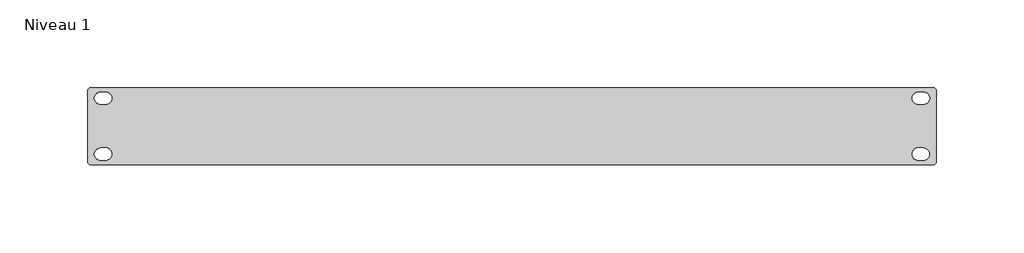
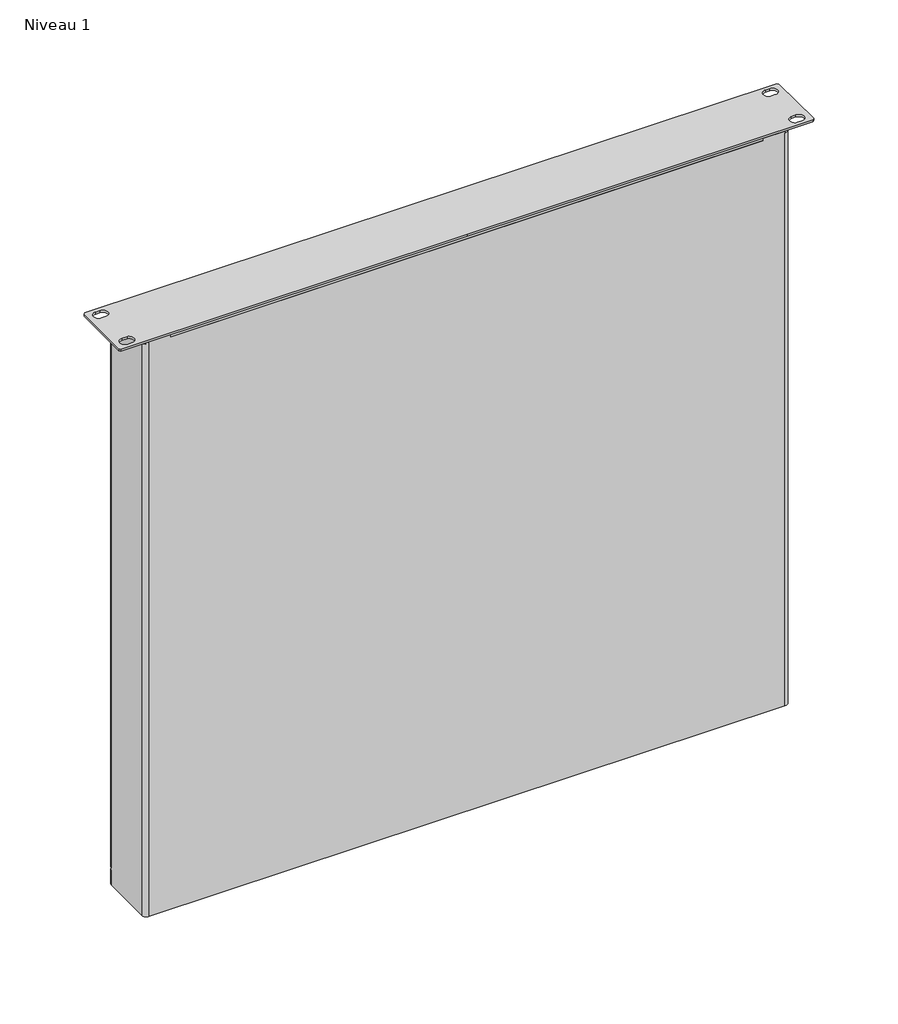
# One storey: 1 proxy.
"""IFC4 building model written with IfcOpenShell, lengths in millimetres."""

from ifc_helpers import new_model, si_unit, origin, place, context, project, spatial, transform, mapped, element, save
from components import electrical_equipment_423b28fd

model = new_model("IFC4")

# Units and contexts
model_context = context("Model", 3, world=origin())
ifc_project = project(units=[si_unit("LENGTHUNIT", "METRE", prefix="MILLI")], contexts=[model_context])

# Site, building, storey
site = spatial("IfcSite", under=ifc_project)
building = spatial("IfcBuilding", under=site)
storey = spatial("IfcBuildingStorey", under=building, Name="Niveau 1", Elevation=0.0)

# Proxy
placement = place(None, origin())
electrical_equipment_shape = electrical_equipment_423b28fd(model_context)
element("IfcBuildingElementProxy", 1, Name="A RK TCR -COMMUN : A RK TCR -COMMUN", ObjectType="A RK TCR -COMMUN : A RK TCR -COMMUN", at=placement, inside=storey, context=model_context, shape_type="MappedRepresentation", body=[
    mapped(electrical_equipment_shape, transform((-6413.7664218, 4795.947931, 0.0), x_axis=(1.0, 0.0, 0.0), y_axis=(0.0, 1.0, 0.0), z_axis=(0.0, 0.0, 1.0))),
])

save(model, "model.ifc")
